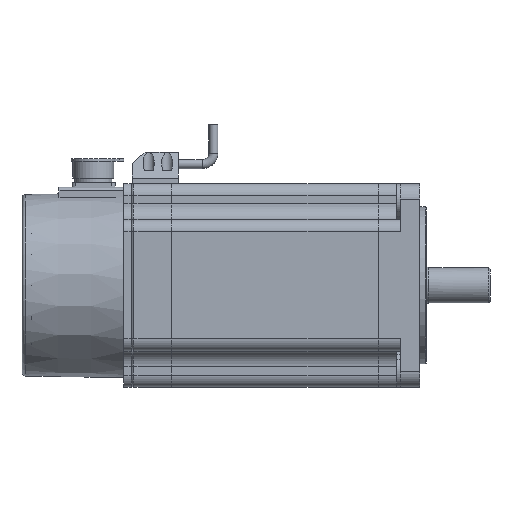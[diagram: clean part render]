
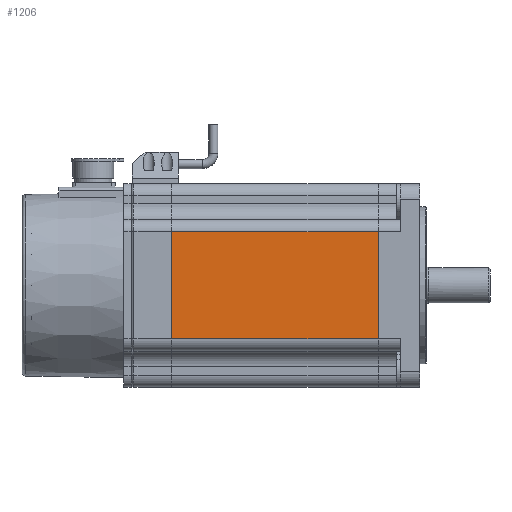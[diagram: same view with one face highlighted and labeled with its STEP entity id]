
A CAD part, left-side view. The second image highlights one B-rep face of the part: STEP entity #1206.
In plain terms, the highlighted planar face has unit normal (-1, 0, 0).
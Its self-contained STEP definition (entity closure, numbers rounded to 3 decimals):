
#1206=ADVANCED_FACE('',(#2026),#1573,.T.);
#1573=PLANE('',#11239);
#2026=FACE_OUTER_BOUND('',#2802,.T.);
#2802=EDGE_LOOP('',(#7594,#7595,#7596,#7597));
#3795=LINE('',#17294,#4815);
#3813=LINE('',#17377,#4833);
#3822=LINE('',#17402,#4842);
#3823=LINE('',#17404,#4843);
#4815=VECTOR('',#13918,1.);
#4833=VECTOR('',#13984,1.);
#4842=VECTOR('',#14017,1.);
#4843=VECTOR('',#14020,1.);
#7594=ORIENTED_EDGE('',*,*,#9952,.F.);
#7595=ORIENTED_EDGE('',*,*,#10004,.F.);
#7596=ORIENTED_EDGE('',*,*,#9993,.T.);
#7597=ORIENTED_EDGE('',*,*,#10005,.T.);
#8573=VERTEX_POINT('',#17293);
#8574=VERTEX_POINT('',#17295);
#8614=VERTEX_POINT('',#17376);
#8615=VERTEX_POINT('',#17378);
#9952=EDGE_CURVE('',#8573,#8574,#3795,.T.);
#9993=EDGE_CURVE('',#8615,#8614,#3813,.T.);
#10004=EDGE_CURVE('',#8615,#8573,#3822,.T.);
#10005=EDGE_CURVE('',#8614,#8574,#3823,.T.);
#11239=AXIS2_PLACEMENT_3D('',#17405,#14021,#14022);
#13918=DIRECTION('',(0.,0.,-1.));
#13984=DIRECTION('',(0.,0.,-1.));
#14017=DIRECTION('',(0.,-1.,0.));
#14020=DIRECTION('',(0.,-1.,0.));
#14021=DIRECTION('',(-1.,0.,0.));
#14022=DIRECTION('',(0.,-1.,0.));
#17293=CARTESIAN_POINT('',(48.892,-72.704,-73.25));
#17294=CARTESIAN_POINT('',(48.892,-72.704,-102.25));
#17295=CARTESIAN_POINT('',(48.892,-72.704,-131.25));
#17376=CARTESIAN_POINT('',(48.892,38.796,-131.25));
#17377=CARTESIAN_POINT('',(48.892,38.796,-102.25));
#17378=CARTESIAN_POINT('',(48.892,38.796,-73.25));
#17402=CARTESIAN_POINT('',(48.892,10.296,-73.25));
#17404=CARTESIAN_POINT('',(48.892,10.296,-131.25));
#17405=CARTESIAN_POINT('',(48.892,10.296,-102.25));
